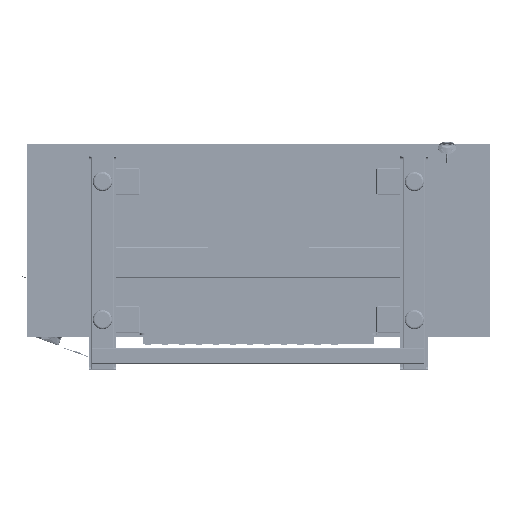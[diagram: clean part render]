
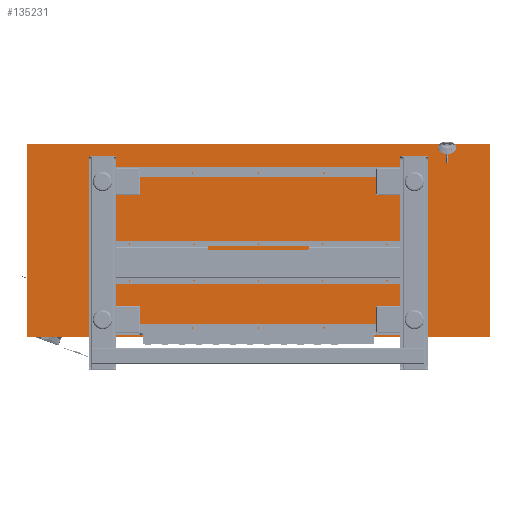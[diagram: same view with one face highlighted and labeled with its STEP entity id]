
A CAD part, front view. The second image highlights one B-rep face of the part: STEP entity #135231.
In plain terms, the highlighted planar face has unit normal (0, -1, 0).
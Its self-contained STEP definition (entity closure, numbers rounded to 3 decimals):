
#6446 = EDGE_LOOP ( 'NONE', ( #328196, #112014, #226531, #111869 ) ) ;
#38785 = DIRECTION ( 'NONE',  ( 0., 0., 1. ) ) ;
#76221 = CARTESIAN_POINT ( 'NONE',  ( -1529.96, 644.5, -70.15 ) ) ;
#83442 = LINE ( 'NONE', #376148, #262964 ) ;
#94329 = LINE ( 'NONE', #292674, #279138 ) ;
#101534 = DIRECTION ( 'NONE',  ( 0., 0., 1. ) ) ;
#105018 = VERTEX_POINT ( 'NONE', #226451 ) ;
#111869 = ORIENTED_EDGE ( 'NONE', *, *, #236259, .F. ) ;
#112014 = ORIENTED_EDGE ( 'NONE', *, *, #313801, .F. ) ;
#118884 = CARTESIAN_POINT ( 'NONE',  ( 298.84, 644.5, 691.85 ) ) ;
#135231 = ADVANCED_FACE ( 'NONE', ( #410942 ), #313073, .F. ) ;
#137457 = LINE ( 'NONE', #309677, #361621 ) ;
#150613 = VECTOR ( 'NONE', #38785, 1000. ) ;
#172097 = DIRECTION ( 'NONE',  ( 0., 1., 0. ) ) ;
#172952 = VERTEX_POINT ( 'NONE', #76221 ) ;
#185800 = VERTEX_POINT ( 'NONE', #406905 ) ;
#226451 = CARTESIAN_POINT ( 'NONE',  ( 298.84, 644.5, -70.15 ) ) ;
#226531 = ORIENTED_EDGE ( 'NONE', *, *, #368146, .F. ) ;
#236259 = EDGE_CURVE ( 'NONE', #105018, #172952, #83442, .T. ) ;
#262964 = VECTOR ( 'NONE', #311921, 1000. ) ;
#273419 = AXIS2_PLACEMENT_3D ( 'NONE', #349054, #172097, #101534 ) ;
#279138 = VECTOR ( 'NONE', #295736, 1000. ) ;
#292674 = CARTESIAN_POINT ( 'NONE',  ( -1529.96, 644.5, 691.85 ) ) ;
#295736 = DIRECTION ( 'NONE',  ( 1., 0., 0. ) ) ;
#300488 = EDGE_CURVE ( 'NONE', #459179, #105018, #137457, .T. ) ;
#302266 = LINE ( 'NONE', #323809, #150613 ) ;
#309677 = CARTESIAN_POINT ( 'NONE',  ( 298.84, 644.5, -70.15 ) ) ;
#311921 = DIRECTION ( 'NONE',  ( -1., 0., 0. ) ) ;
#313073 = PLANE ( 'NONE',  #273419 ) ;
#313801 = EDGE_CURVE ( 'NONE', #185800, #459179, #94329, .T. ) ;
#323809 = CARTESIAN_POINT ( 'NONE',  ( -1529.96, 644.5, -70.15 ) ) ;
#328196 = ORIENTED_EDGE ( 'NONE', *, *, #300488, .F. ) ;
#345618 = DIRECTION ( 'NONE',  ( 0., 0., -1. ) ) ;
#349054 = CARTESIAN_POINT ( 'NONE',  ( -615.56, 644.5, 310.85 ) ) ;
#361621 = VECTOR ( 'NONE', #345618, 1000. ) ;
#368146 = EDGE_CURVE ( 'NONE', #172952, #185800, #302266, .T. ) ;
#376148 = CARTESIAN_POINT ( 'NONE',  ( -1529.96, 644.5, -70.15 ) ) ;
#406905 = CARTESIAN_POINT ( 'NONE',  ( -1529.96, 644.5, 691.85 ) ) ;
#410942 = FACE_OUTER_BOUND ( 'NONE', #6446, .T. ) ;
#459179 = VERTEX_POINT ( 'NONE', #118884 ) ;
